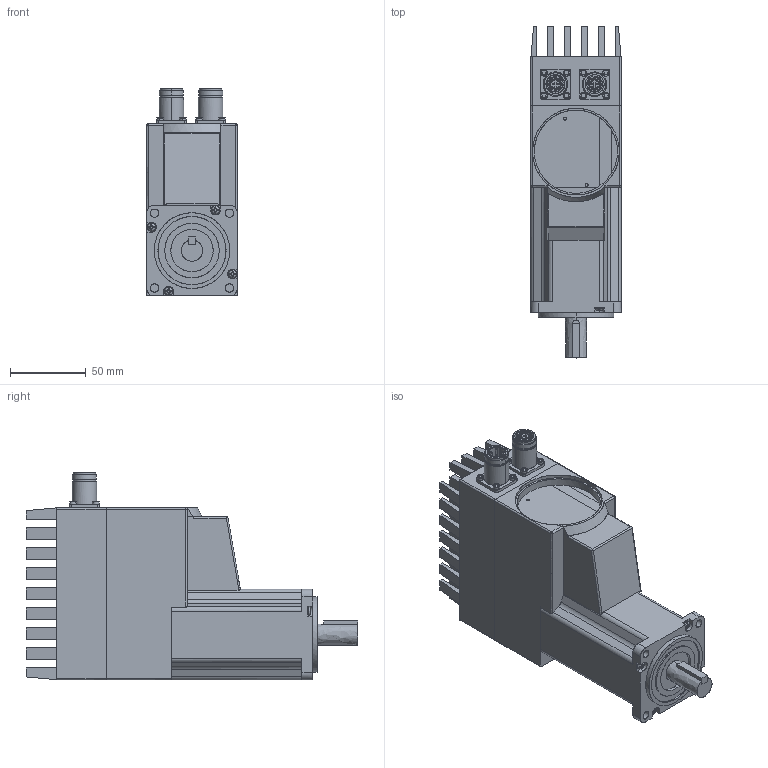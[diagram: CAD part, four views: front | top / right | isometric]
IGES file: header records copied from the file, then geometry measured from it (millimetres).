
Start section: Comment
Global section: file name: MAC400-D1.igs; native system:  By UGS Corp.; preprocessor: XPlus GENERIC/IGES 3.0; author: Author; organization: Title; date: 20091202.131117; units: millimetre
Bounding box: 60 x 219.36 x 137.5 mm (x, y, z)
Surface area: 132541.3 mm2 (no closed solid volume)
Topology: 0 solids, 0 shells, 1113 faces, 5444 edges, 5442 vertices
Faces by surface type: bspline 1113
